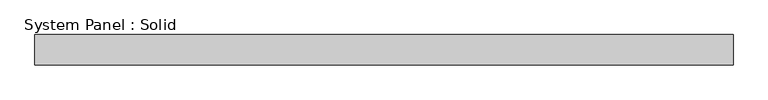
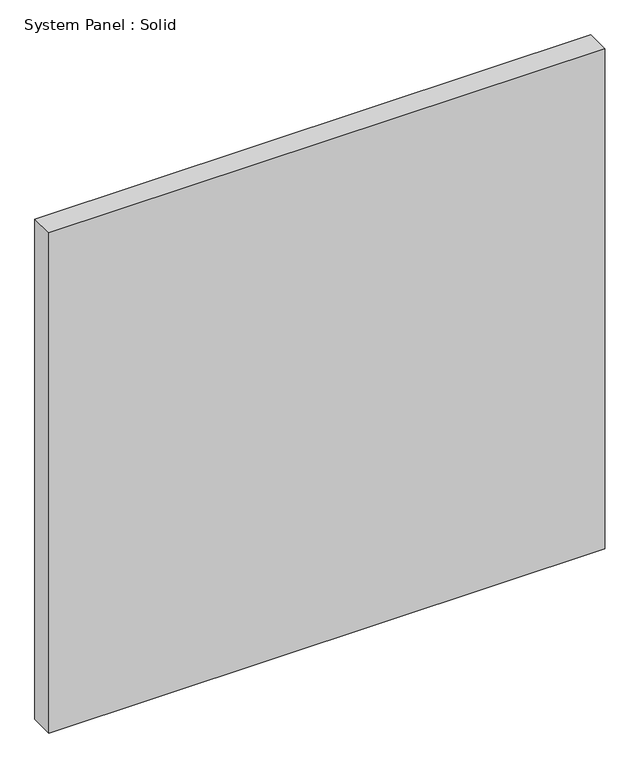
"""IFC4 building model written with IfcOpenShell, lengths in millimetres: plate geometry, System Panel : Solid."""

from ifc_helpers import new_model, si_unit, origin, origin_with_axes, place, context, project, spatial, polyline, outline, extrude, source, transform, mapped, element, save


def system_panel_solid_c63c66e8(model_context):
    return source(origin(), model_context, "Body", "SweptSolid", [
        extrude(outline(polyline([(688.6640643, -49.5), (-688.6640643, -49.5), (-688.6640643, 10.5), (688.6640643, 10.5), (688.6640643, -49.5)])), origin_with_axes(), (0.0, 0.0, 1.0), 1310.0),
    ])


if __name__ == "__main__":
    model = new_model("IFC4")
    model_context = context("Model", 3, world=origin())
    ifc_project = project(units=[si_unit("LENGTHUNIT", "METRE", prefix="MILLI")], contexts=[model_context])
    site = spatial("IfcSite", under=ifc_project)
    building = spatial("IfcBuilding", under=site)
    placement = place(None, origin())
    system_panel_solid_shape = system_panel_solid_c63c66e8(model_context)
    element("IfcPlate", 1, ObjectType="System Panel : Solid", at=placement, inside=building, context=model_context, shape_type="MappedRepresentation", body=[
        mapped(system_panel_solid_shape, transform((0.0, 0.0, 0.0), x_axis=(1.0, 0.0, 0.0), y_axis=(0.0, 1.0, 0.0), z_axis=(0.0, 0.0, 1.0))),
    ])
    save(model, "model.ifc")
